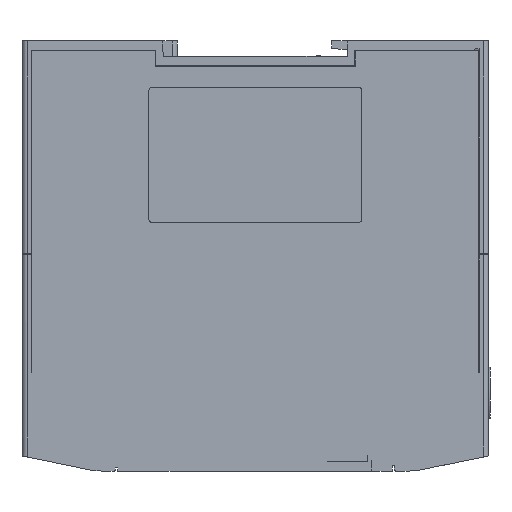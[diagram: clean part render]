
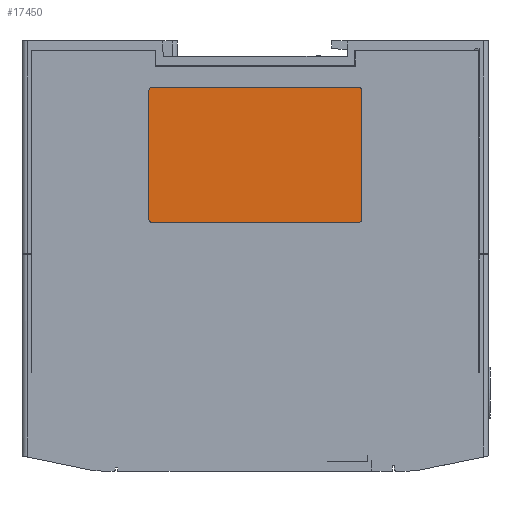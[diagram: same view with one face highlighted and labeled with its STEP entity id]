
A CAD part, left-side view. The second image highlights one B-rep face of the part: STEP entity #17450.
In plain terms, the highlighted planar face has unit normal (-1, 0, 0).
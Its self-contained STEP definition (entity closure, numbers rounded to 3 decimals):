
#6229=CARTESIAN_POINT('',(-87.3,-20.,-6.5));
#6230=DIRECTION('',(1.,0.,0.));
#6231=DIRECTION('',(0.,0.,1.));
#6232=AXIS2_PLACEMENT_3D('',#6229,#6230,#6231);
#6234=DIRECTION('',(0.,0.,-1.));
#6235=VECTOR('',#6234,25.);
#6236=CARTESIAN_POINT('',(-87.3,-20.5,-6.5));
#6237=LINE('',#6236,#6235);
#6238=CARTESIAN_POINT('',(-87.3,-20.,-31.5));
#6239=DIRECTION('',(1.,0.,0.));
#6240=DIRECTION('',(0.,-1.,0.));
#6241=AXIS2_PLACEMENT_3D('',#6238,#6239,#6240);
#6243=DIRECTION('',(0.,1.,0.));
#6244=VECTOR('',#6243,40.);
#6245=CARTESIAN_POINT('',(-87.3,-20.,-32.));
#6246=LINE('',#6245,#6244);
#6247=CARTESIAN_POINT('',(-87.3,20.,-31.5));
#6248=DIRECTION('',(1.,0.,0.));
#6249=DIRECTION('',(0.,0.,-1.));
#6250=AXIS2_PLACEMENT_3D('',#6247,#6248,#6249);
#6252=DIRECTION('',(0.,0.,1.));
#6253=VECTOR('',#6252,25.);
#6254=CARTESIAN_POINT('',(-87.3,20.5,-31.5));
#6255=LINE('',#6254,#6253);
#6256=CARTESIAN_POINT('',(-87.3,20.,-6.5));
#6257=DIRECTION('',(1.,0.,0.));
#6258=DIRECTION('',(0.,1.,0.));
#6259=AXIS2_PLACEMENT_3D('',#6256,#6257,#6258);
#6261=DIRECTION('',(0.,-1.,0.));
#6262=VECTOR('',#6261,40.);
#6263=CARTESIAN_POINT('',(-87.3,20.,-6.));
#6264=LINE('',#6263,#6262);
#8712=CARTESIAN_POINT('',(-87.3,-20.5,-6.5));
#8713=VERTEX_POINT('',#8712);
#8714=CARTESIAN_POINT('',(-87.3,-20.,-6.));
#8715=VERTEX_POINT('',#8714);
#8716=CARTESIAN_POINT('',(-87.3,-20.5,-31.5));
#8717=VERTEX_POINT('',#8716);
#8718=CARTESIAN_POINT('',(-87.3,-20.,-32.));
#8719=VERTEX_POINT('',#8718);
#8720=CARTESIAN_POINT('',(-87.3,20.,-32.));
#8721=VERTEX_POINT('',#8720);
#8722=CARTESIAN_POINT('',(-87.3,20.5,-31.5));
#8723=VERTEX_POINT('',#8722);
#8724=CARTESIAN_POINT('',(-87.3,20.5,-6.5));
#8725=VERTEX_POINT('',#8724);
#8726=CARTESIAN_POINT('',(-87.3,20.,-6.));
#8727=VERTEX_POINT('',#8726);
#17435=CARTESIAN_POINT('',(-87.3,0.,0.));
#17436=DIRECTION('',(-1.,0.,0.));
#17437=DIRECTION('',(0.,-1.,0.));
#17438=AXIS2_PLACEMENT_3D('',#17435,#17436,#17437);
#17439=PLANE('',#17438);
#17440=ORIENTED_EDGE('',*,*,#17331,.T.);
#17441=ORIENTED_EDGE('',*,*,#17346,.T.);
#17442=ORIENTED_EDGE('',*,*,#17360,.T.);
#17443=ORIENTED_EDGE('',*,*,#17374,.T.);
#17444=ORIENTED_EDGE('',*,*,#17388,.T.);
#17445=ORIENTED_EDGE('',*,*,#17402,.T.);
#17446=ORIENTED_EDGE('',*,*,#17416,.T.);
#17447=ORIENTED_EDGE('',*,*,#17429,.T.);
#17448=EDGE_LOOP('',(#17440,#17441,#17442,#17443,#17444,#17445,#17446,#17447));
#17449=FACE_OUTER_BOUND('',#17448,.F.);
#17450=ADVANCED_FACE('',(#17449),#17439,.T.);
#6233=CIRCLE('',#6232,0.5);
#6242=CIRCLE('',#6241,0.5);
#6251=CIRCLE('',#6250,0.5);
#6260=CIRCLE('',#6259,0.5);
#17331=EDGE_CURVE('',#8715,#8713,#6233,.T.);
#17346=EDGE_CURVE('',#8713,#8717,#6237,.T.);
#17360=EDGE_CURVE('',#8717,#8719,#6242,.T.);
#17374=EDGE_CURVE('',#8719,#8721,#6246,.T.);
#17388=EDGE_CURVE('',#8721,#8723,#6251,.T.);
#17402=EDGE_CURVE('',#8723,#8725,#6255,.T.);
#17416=EDGE_CURVE('',#8725,#8727,#6260,.T.);
#17429=EDGE_CURVE('',#8727,#8715,#6264,.T.);
